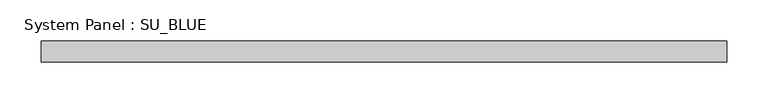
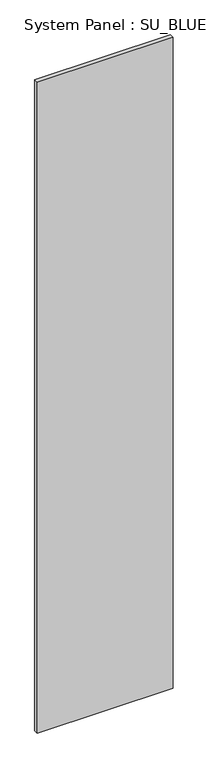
"""IFC4 building model written with IfcOpenShell, lengths in millimetres: plate geometry, System Panel : SU_BLUE."""

from ifc_helpers import new_model, si_unit, origin, origin_with_axes, place, context, project, spatial, polyline, outline, extrude, source, transform, mapped, element, save


def system_panel_su_blue_af244712(model_context):
    return source(origin(), model_context, "Body", "SweptSolid", [
        extrude(outline(polyline([(415.3596078, 19.05), (-415.3596078, 19.05), (-415.3596078, 44.45), (415.3596078, 44.45), (415.3596078, 19.05)])), origin_with_axes(), (0.0, 0.0, 1.0), 4203.7),
    ])


if __name__ == "__main__":
    model = new_model("IFC4")
    model_context = context("Model", 3, world=origin())
    ifc_project = project(units=[si_unit("LENGTHUNIT", "METRE", prefix="MILLI")], contexts=[model_context])
    site = spatial("IfcSite", under=ifc_project)
    building = spatial("IfcBuilding", under=site)
    placement = place(None, origin())
    system_panel_su_blue_shape = system_panel_su_blue_af244712(model_context)
    element("IfcPlate", 1, ObjectType="System Panel : SU_BLUE", at=placement, inside=building, context=model_context, shape_type="MappedRepresentation", body=[
        mapped(system_panel_su_blue_shape, transform((0.0, 0.0, 0.0), x_axis=(1.0, 0.0, 0.0), y_axis=(0.0, 1.0, 0.0), z_axis=(0.0, 0.0, 1.0))),
    ])
    save(model, "model.ifc")
